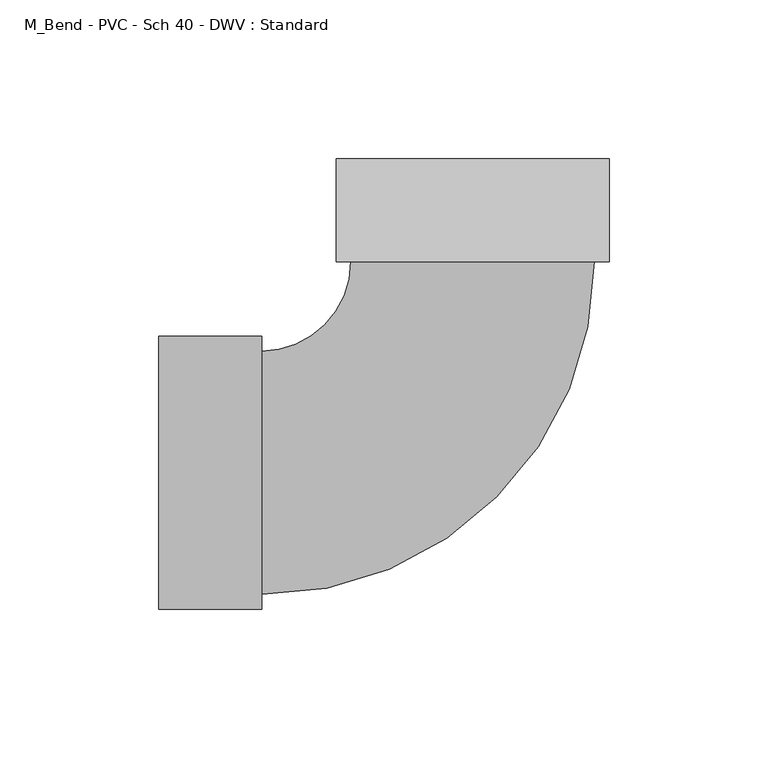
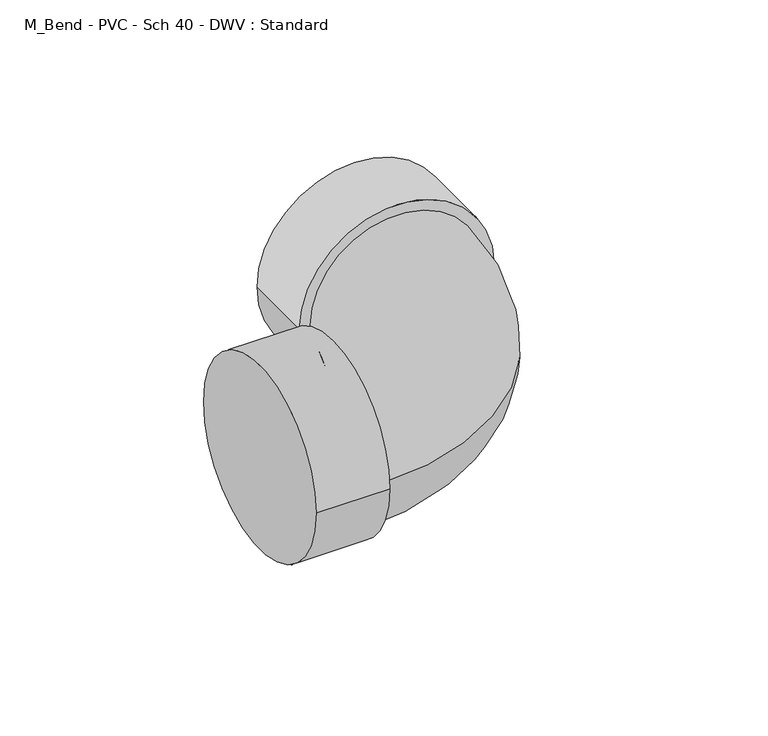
"""IFC4 building model written with IfcOpenShell, lengths in millimetres: pipe fitting geometry, M_Bend - PVC - Sch 40 - DWV : Standard."""

import ifcopenshell
import ifcopenshell.guid

model = None  # the IFC model being written
_history = None  # IfcOwnerHistory: only IFC2X3 demands one
_inside = {}  # id of a spatial element -> (the spatial element, [elements in it])
_under = {}  # id of a project, library or spatial element -> (it, [spatial elements below it])
_declared = {}  # id of a project -> (the project, [libraries it declares])
_typed = {}  # id of a type object -> (the type object, [elements of that type])
_made_of = {}  # id of a material, layer set ... -> (it, [elements and type objects made of it])


def new_model(schema):
    """Start an empty IFC model of exactly this schema.

    Asked for "IFC4X3", IfcOpenShell would pick the latest addendum, in which some entities
    have other attributes; the version numbers below select the first issue.
    IFC2X3 requires an IfcOwnerHistory on every rooted entity: one is made here for all.
    """
    global model, _history
    if schema == "IFC4X3":
        model = ifcopenshell.file(schema_version=(4, 3, 0, 0))
    else:
        model = ifcopenshell.file(schema=schema)
    _inside.clear()
    _under.clear()
    _declared.clear()
    _typed.clear()
    _made_of.clear()
    _history = None
    if model.schema == "IFC2X3":
        org = make("IfcOrganization", Name="unknown")
        user = make(
            "IfcPersonAndOrganization",
            ThePerson=make("IfcPerson", FamilyName="unknown"),
            TheOrganization=org,
        )
        app = make(
            "IfcApplication",
            ApplicationDeveloper=org,
            Version="unknown",
            ApplicationFullName="unknown",
            ApplicationIdentifier="unknown",
        )
        _history = make(
            "IfcOwnerHistory",
            OwningUser=user,
            OwningApplication=app,
            ChangeAction="ADDED",
            CreationDate=0,
        )
    return model


def make(cls, **values):
    """One entity of the class cls with the attributes given. An attribute that is None is left unset."""
    return model.create_entity(
        cls, **{name: value for name, value in values.items() if value is not None}
    )


def rooted(cls, **values):
    """An entity with a GlobalId (a new one), such as an element, a storey or a relation."""
    return make(cls, GlobalId=ifcopenshell.guid.new(), OwnerHistory=_history, **values)


def si_unit(unit_type, name, prefix=None):
    """IfcSIUnit, for example si_unit("LENGTHUNIT", "METRE", prefix="MILLI")."""
    return make("IfcSIUnit", UnitType=unit_type, Prefix=prefix, Name=name)


def assignment(units):
    """IfcUnitAssignment: the units of a project."""
    return None if units is None else make("IfcUnitAssignment", Units=units)


def point(xyz):
    """IfcCartesianPoint."""
    return None if xyz is None else make("IfcCartesianPoint", Coordinates=xyz)


def direction(xyz):
    """IfcDirection."""
    return None if xyz is None else make("IfcDirection", DirectionRatios=xyz)


def frame(location, z_axis=None, x_axis=None):
    """IfcAxis2Placement3D, a coordinate frame: its origin and axes. An axis left out is left unset."""
    return make(
        "IfcAxis2Placement3D",
        Location=point(location),
        Axis=direction(z_axis),
        RefDirection=direction(x_axis),
    )


def origin():
    """The frame at (0, 0, 0) with its axes left unset."""
    return frame((0.0, 0.0, 0.0))


def place(relative_to, where):
    """IfcLocalPlacement: puts the frame where relative to a parent placement (None: the world)."""
    return make(
        "IfcLocalPlacement", PlacementRelTo=relative_to, RelativePlacement=where
    )


def context(
    kind, dimensions, precision=None, world=None, true_north=None, identifier=None
):
    """IfcGeometricRepresentationContext, for example the 3D "Model" context."""
    return make(
        "IfcGeometricRepresentationContext",
        ContextIdentifier=identifier,
        ContextType=kind,
        CoordinateSpaceDimension=dimensions,
        Precision=precision,
        WorldCoordinateSystem=world,
        TrueNorth=true_north,
    )


def project(units=None, contexts=None):
    """IfcProject with its units and contexts."""
    return rooted(
        "IfcProject",
        Name="project",
        RepresentationContexts=contexts,
        UnitsInContext=assignment(units),
    )


def spatial(cls, under=None, at=None, **own):
    """A site, building, storey or space (cls), placed at a placement, below another one or the project."""
    s = rooted(cls, ObjectPlacement=at, **own)
    if under is not None:
        _under.setdefault(under.id(), (under, []))[1].append(s)
    return s


def circle_curve(where, radius):
    """IfcCircle in the frame where."""
    return make("IfcCircle", Position=where, Radius=radius)


def ellipse_curve(where, semi_axis1, semi_axis2):
    """IfcEllipse in the frame where."""
    return make(
        "IfcEllipse", Position=where, SemiAxis1=semi_axis1, SemiAxis2=semi_axis2
    )


def trimmed(basis, trim1, trim2, sense, master):
    """IfcTrimmedCurve: the piece of a basis curve between two trims."""
    return make(
        "IfcTrimmedCurve",
        BasisCurve=basis,
        Trim1=trim1,
        Trim2=trim2,
        SenseAgreement=sense,
        MasterRepresentation=master,
    )


def shape(context_of_items, identifier, shape_type, items):
    """IfcShapeRepresentation: the items that make up one representation, for example the "Body"."""
    return make(
        "IfcShapeRepresentation",
        ContextOfItems=context_of_items,
        RepresentationIdentifier=identifier,
        RepresentationType=shape_type,
        Items=items,
    )


def source(mapping_origin, context_of_items, identifier, shape_type, items):
    """IfcRepresentationMap: a shape defined once, which mapped items show again and again."""
    return make(
        "IfcRepresentationMap",
        MappingOrigin=mapping_origin,
        MappedRepresentation=shape(context_of_items, identifier, shape_type, items),
    )


def transform(
    local_origin,
    x_axis=None,
    y_axis=None,
    z_axis=None,
    scale=None,
    scale2=None,
    scale3=None,
    uniform=True,
):
    """IfcCartesianTransformationOperator3D, or its non-uniform kind. x_axis, y_axis, z_axis: its Axis1, 2, 3."""
    if uniform:
        return make(
            "IfcCartesianTransformationOperator3D",
            Axis1=direction(x_axis),
            Axis2=direction(y_axis),
            LocalOrigin=point(local_origin),
            Scale=scale,
            Axis3=direction(z_axis),
        )
    return make(
        "IfcCartesianTransformationOperator3DnonUniform",
        Axis1=direction(x_axis),
        Axis2=direction(y_axis),
        LocalOrigin=point(local_origin),
        Scale=scale,
        Axis3=direction(z_axis),
        Scale2=scale2,
        Scale3=scale3,
    )


def mapped(mapping_source, mapping_target):
    """IfcMappedItem: shows the shape of a source again, moved by a transform."""
    return make(
        "IfcMappedItem", MappingSource=mapping_source, MappingTarget=mapping_target
    )


def made_of(thing, what):
    """Note that an element or type object is made of a material, layer set ...; save() writes the relation."""
    if what is not None:
        _made_of.setdefault(what.id(), (what, []))[1].append(thing)
    return thing


def element(
    cls,
    number,
    at=None,
    inside=None,
    cuts=None,
    type_object=None,
    material=None,
    context=None,
    identifier="Body",
    shape_type=None,
    held_by="IfcProductDefinitionShape",
    body=None,
    shapes=None,
    **own,
):
    """One element of the class cls, such as IfcWall. Its Tag is "e" and its number.

    at: its placement. inside: the storey or other place that contains it. cuts: it is an
    opening in that element (IfcRelVoidsElement). A single representation is given by context,
    identifier, shape_type and body (its items); several are given by shapes. held_by: the class
    of the entity that holds the representations. save() writes the other relations.
    """
    e = rooted(cls, Tag="e%d" % number, ObjectPlacement=at, **own)
    if body is not None:
        shapes = [shape(context, identifier, shape_type, body)]
    if shapes is not None:
        e.Representation = make(held_by, Representations=shapes)
    if inside is not None:
        _inside.setdefault(inside.id(), (inside, []))[1].append(e)
    if cuts is not None:
        rooted(
            "IfcRelVoidsElement", RelatingBuildingElement=cuts, RelatedOpeningElement=e
        )
    if type_object is not None:
        _typed.setdefault(type_object.id(), (type_object, []))[1].append(e)
    return made_of(e, material)


def aggregate(whole, parts):
    """IfcRelAggregates: a whole, such as a stair, and the parts it consists of."""
    return rooted("IfcRelAggregates", RelatingObject=whole, RelatedObjects=parts)


def save(model, path):
    """Write the relations noted so far, then the file.

    IfcRelAggregates (storeys below a building ...), IfcRelContainedInSpatialStructure (elements
    in a storey), IfcRelDefinesByType, IfcRelAssociatesMaterial and IfcRelDeclares: one each for
    every whole, place, type object, material and project.
    """
    for whole, parts in _under.values():
        aggregate(whole, parts)
    for where, things in _inside.values():
        rooted(
            "IfcRelContainedInSpatialStructure",
            RelatedElements=things,
            RelatingStructure=where,
        )
    for kind, things in _typed.values():
        rooted("IfcRelDefinesByType", RelatedObjects=things, RelatingType=kind)
    for what, things in _made_of.values():
        rooted("IfcRelAssociatesMaterial", RelatedObjects=things, RelatingMaterial=what)
    for by, libraries in _declared.values():
        rooted("IfcRelDeclares", RelatingContext=by, RelatedDefinitions=libraries)
    model.write(path)


def plane_surface(at):
    """IfcPlane: the flat surface through the origin of the frame at, square to its z axis."""
    return make("IfcPlane", Position=at)


def cylinder_surface(at, radius):
    """IfcCylindricalSurface: all points at the distance radius from the z axis of the frame at."""
    return make("IfcCylindricalSurface", Position=at, Radius=radius)


def revolved_surface(curve, axis_point, axis_direction):
    """IfcSurfaceOfRevolution: the curve turned about the line through axis_point along axis_direction."""
    return make(
        "IfcSurfaceOfRevolution",
        SweptCurve=make("IfcArbitraryOpenProfileDef", ProfileType="CURVE", Curve=curve),
        AxisPosition=make("IfcAxis1Placement", Location=point(axis_point), Axis=direction(axis_direction)),
    )


def advanced_brep(points, edges, surfaces, faces):
    """IfcAdvancedBrep: a solid bounded by faces that lie on surfaces and meet in shared edges.

    An edge is (start, end): straight between two places in points (the first is 0);
    or (start, end, curve); or (start, end, curve, False) where it runs against its curve.
    A face is (place in surfaces, loops), or (place, loops, False) where it looks against
    its surface's normal. A loop lists edges by number (the first is 1), with a minus sign
    where the edge is run from its end to its start. The first loop is the outer one.
    """
    corners = [point(p) for p in points]
    vertices = [make("IfcVertexPoint", VertexGeometry=c) for c in corners]
    made = []
    for start, end, *more in edges:
        made.append(
            make(
                "IfcEdgeCurve",
                EdgeStart=vertices[start],
                EdgeEnd=vertices[end],
                EdgeGeometry=more[0] if more else make("IfcPolyline", Points=[corners[start], corners[end]]),
                SameSense=more[1] if len(more) > 1 else True,
            )
        )
    hull = []
    for where, loops, *sense in faces:
        bounds = []
        for j, loop in enumerate(loops):
            ring = [make("IfcOrientedEdge", EdgeElement=made[abs(k) - 1], Orientation=k > 0) for k in loop]
            bounds.append(
                make(
                    "IfcFaceOuterBound" if j == 0 else "IfcFaceBound",
                    Bound=make("IfcEdgeLoop", EdgeList=ring),
                    Orientation=True,
                )
            )
        hull.append(make("IfcAdvancedFace", Bounds=bounds, FaceSurface=surfaces[where], SameSense=sense[0] if sense else True))
    return make("IfcAdvancedBrep", Outer=make("IfcClosedShell", CfsFaces=hull))


def m_bend_pvc_sch_40_dwv_standard_1fdc8943(model_context):
    return source(origin(), model_context, "Body", "AdvancedBrep", [
        advanced_brep(
        [(-99.0140625, -43.0871094, 0.0), (-99.0140625, 43.0871094, 0.0), (-66.5140625, -43.0871094, 0.0), (-66.5140625, 43.0871094, 0.0), (-66.5140625, -38.3640625, 0.0), (-66.5140625, 38.3640625, 0.0), (-38.3640625, 66.5140625, 0.0), (38.3640625, 66.5140625, 0.0), (43.0871094, 66.5140625, 0.0), (-43.0871094, 66.5140625, 0.0), (43.0871094, 99.0140625, 0.0), (-43.0871094, 99.0140625, 0.0)],
        [
            (0, 1, circle_curve(frame((-99.0140625, 0.0, 0.0), z_axis=(-1.0, 0.0, 0.0), x_axis=(0.0, 1.0, 0.0)), 43.0871094)),
            (1, 0, circle_curve(frame((-99.0140625, 0.0, 0.0), z_axis=(-1.0, 0.0, 0.0), x_axis=(0.0, 1.0, 0.0)), 43.0871094)),
            (2, 3, circle_curve(frame((-66.5140625, 0.0, 0.0), z_axis=(1.0, 0.0, 0.0), x_axis=(0.0, 1.0, 0.0)), 43.0871094)),
            (3, 2, circle_curve(frame((-66.5140625, 0.0, 0.0), z_axis=(1.0, 0.0, 0.0), x_axis=(0.0, 1.0, 0.0)), 43.0871094)),
            (4, 5, circle_curve(frame((-66.5140625, 0.0, 0.0), z_axis=(-1.0, 0.0, 0.0), x_axis=(0.0, 1.0, 0.0)), 38.3640625)),
            (5, 4, circle_curve(frame((-66.5140625, 0.0, 0.0), z_axis=(-1.0, 0.0, 0.0), x_axis=(0.0, 1.0, 0.0)), 38.3640625)),
            (0, 2),
            (3, 1),
            (6, 5, circle_curve(frame((-66.5140625, 66.5140625, 0.0), z_axis=(0.0, 0.0, -1.0), x_axis=(0.0, -1.0, 0.0)), 28.15)),
            (4, 7, circle_curve(frame((-66.5140625, 66.5140625, 0.0), z_axis=(0.0, 0.0, 1.0), x_axis=(0.0, -1.0, 0.0)), 104.878125)),
            (7, 6, circle_curve(frame((0.0, 66.5140625, 0.0), z_axis=(0.0, -1.0, 0.0), x_axis=(-1.0, 0.0, 0.0)), 38.3640625)),
            (6, 7, circle_curve(frame((0.0, 66.5140625, 0.0), z_axis=(0.0, -1.0, 0.0), x_axis=(-1.0, 0.0, 0.0)), 38.3640625)),
            (8, 9, circle_curve(frame((0.0, 66.5140625, 0.0), z_axis=(0.0, -1.0, 0.0), x_axis=(-1.0, 0.0, 0.0)), 43.0871094)),
            (9, 8, circle_curve(frame((0.0, 66.5140625, 0.0), z_axis=(0.0, -1.0, 0.0), x_axis=(-1.0, 0.0, 0.0)), 43.0871094)),
            (10, 11, circle_curve(frame((0.0, 99.0140625, 0.0), z_axis=(0.0, 1.0, 0.0), x_axis=(-1.0, 0.0, 0.0)), 43.0871094)),
            (11, 10, circle_curve(frame((0.0, 99.0140625, 0.0), z_axis=(0.0, 1.0, 0.0), x_axis=(-1.0, 0.0, 0.0)), 43.0871094)),
            (8, 10),
            (11, 9),
        ],
        [
            plane_surface(frame((-99.0140625, 0.0, 0.0), z_axis=(-1.0, 0.0, 0.0), x_axis=(0.0, 0.0, 1.0))),
            plane_surface(frame((-66.5140625, 0.0, 0.0), z_axis=(1.0, 0.0, 0.0), x_axis=(0.0, 0.0, 1.0))),
            cylinder_surface(frame((-99.0140625, 0.0, 0.0), z_axis=(-1.0, 0.0, 0.0), x_axis=(0.0, 1.0, 0.0)), 43.0871094),
            revolved_surface(trimmed(ellipse_curve(frame((-66.5140625, 0.0, 0.0), z_axis=(-1.0, 0.0, 0.0), x_axis=(0.0, 1.0, 0.0)), 38.3640625, 38.3640625), [point((-66.5140625, -38.3640625, 0.0))], [point((-66.5140625, 38.3640625, 0.0))], True, "CARTESIAN"), (-66.5140625, 66.5140625, 0.0), (0.0, 0.0, 1.0)),
            revolved_surface(trimmed(ellipse_curve(frame((-66.5140625, 0.0, 0.0), z_axis=(-1.0, 0.0, 0.0), x_axis=(0.0, 1.0, 0.0)), 38.3640625, 38.3640625), [point((-66.5140625, 38.3640625, 0.0))], [point((-66.5140625, -38.3640625, 0.0))], True, "CARTESIAN"), (-66.5140625, 66.5140625, 0.0), (0.0, 0.0, 1.0)),
            plane_surface(frame((0.0, 66.5140625, 0.0), z_axis=(0.0, -1.0, 0.0), x_axis=(0.0, 0.0, 1.0))),
            plane_surface(frame((0.0, 99.0140625, 0.0), z_axis=(0.0, 1.0, 0.0), x_axis=(0.0, 0.0, 1.0))),
            cylinder_surface(frame((0.0, 66.5140625, 0.0), z_axis=(0.0, -1.0, 0.0), x_axis=(-1.0, 0.0, 0.0)), 43.0871094),
        ],
        [
            (0, [[1, 2]]),
            (1, [[3, 4], [5, 6]]),
            (2, [[-1, 7, -4, 8]]),
            (2, [[-2, -8, -3, -7]]),
            (3, [[9, -5, 10, 11]]),
            (4, [[-9, 12, -10, -6]]),
            (5, [[13, 14], [-11, -12]]),
            (6, [[15, 16]]),
            (7, [[-13, 17, -16, 18]]),
            (7, [[-14, -18, -15, -17]]),
        ],
    ),
    ])


if __name__ == "__main__":
    model = new_model("IFC4")
    model_context = context("Model", 3, world=origin())
    ifc_project = project(units=[si_unit("LENGTHUNIT", "METRE", prefix="MILLI")], contexts=[model_context])
    site = spatial("IfcSite", under=ifc_project)
    building = spatial("IfcBuilding", under=site)
    placement = place(None, origin())
    m_bend_pvc_sch_40_dwv_standard_shape = m_bend_pvc_sch_40_dwv_standard_1fdc8943(model_context)
    element("IfcPipeFitting", 1, ObjectType="M_Bend - PVC - Sch 40 - DWV : Standard", at=placement, inside=building, context=model_context, shape_type="MappedRepresentation", body=[
        mapped(m_bend_pvc_sch_40_dwv_standard_shape, transform((0.0, 0.0, 0.0), x_axis=(1.0, 0.0, 0.0), y_axis=(0.0, 1.0, 0.0), z_axis=(0.0, 0.0, 1.0))),
    ])
    save(model, "model.ifc")
